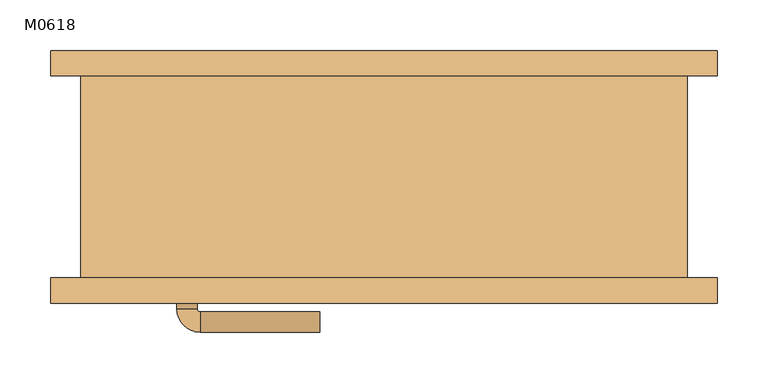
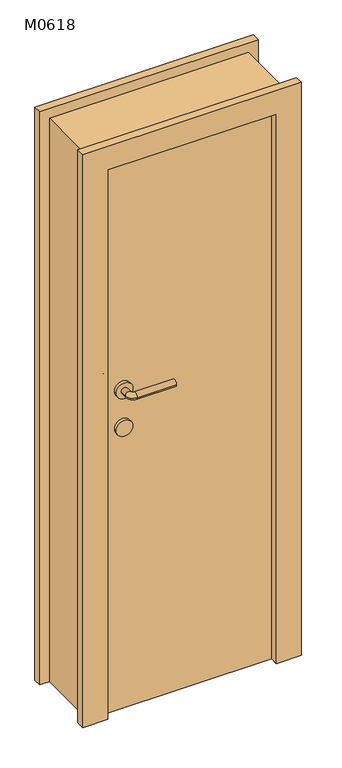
"""IFC4 building model written with IfcOpenShell, lengths in millimetres: door geometry, 单嵌板木门 1 : M0618."""

from ifc_helpers import new_model, si_unit, point, frame, frame_2d, origin, origin_with_axes, place, context, project, spatial, polyline, circle_curve, ellipse_curve, trimmed, segment, composite_curve, outline, extrude, source, transform, mapped, element, save
from ifc_brep_helpers import plane_surface, cylinder_surface, revolved_surface, advanced_brep


def m0618_80e2c4cc(model_context):
    return source(origin(), model_context, "Body", "SolidModel", [
        extrude(outline(composite_curve([segment(trimmed(circle_curve(frame_2d((900.0, -195.0)), 25.0), [point((900.0, -170.0))], [point((900.0, -220.0))], False, "CARTESIAN"), True, "CONTINUOUS"), segment(trimmed(circle_curve(frame_2d((900.0, -195.0)), 25.0), [point((900.0, -220.0))], [point((900.0, -170.0))], False, "CARTESIAN"), True, "CONTINUOUS")], self_intersect=False)), frame((0.0, -50.0, 0.0), z_axis=(0.0, 1.0, 0.0), x_axis=(0.0, 0.0, 1.0)), (0.0, 0.0, 1.0), 10.0),
        extrude(outline(composite_curve([segment(trimmed(circle_curve(frame_2d((900.0, -195.0)), 25.0), [point((900.0, -170.0))], [point((900.0, -220.0))], False, "CARTESIAN"), True, "CONTINUOUS"), segment(trimmed(circle_curve(frame_2d((900.0, -195.0)), 25.0), [point((900.0, -220.0))], [point((900.0, -170.0))], False, "CARTESIAN"), True, "CONTINUOUS")], self_intersect=False)), frame((0.0, -110.0, 0.0), z_axis=(0.0, 1.0, 0.0), x_axis=(0.0, 0.0, 1.0)), (0.0, 0.0, 1.0), 10.0),
        advanced_brep(
        [(-205.0, -40.0, 1020.0), (-185.0, -40.0, 1020.0), (-205.0, -19.386645, 1020.0), (-185.0, -19.386645, 1020.0), (-63.419036, 3.580964, 1020.0), (-63.419036, -16.419036, 1020.0), (-182.0323911, -16.419036, 1020.0), (-182.0323911, 3.580964, 1020.0)],
        [
            (0, 1, circle_curve(frame((-195.0, -40.0, 1020.0), z_axis=(0.0, -1.0, 0.0), x_axis=(1.0, 0.0, 0.0)), 10.0)),
            (1, 0, circle_curve(frame((-195.0, -40.0, 1020.0), z_axis=(0.0, -1.0, 0.0), x_axis=(1.0, 0.0, 0.0)), 10.0)),
            (0, 2),
            (2, 3, circle_curve(frame((-195.0, -19.386645, 1020.0), z_axis=(0.0, -1.0, 0.0), x_axis=(1.0, 0.0, 0.0)), 10.0)),
            (3, 1),
            (3, 2, circle_curve(frame((-195.0, -19.386645, 1020.0), z_axis=(0.0, -1.0, 0.0), x_axis=(1.0, 0.0, 0.0)), 10.0)),
            (4, 5, circle_curve(frame((-63.419036, -6.419036, 1020.0), z_axis=(1.0, 0.0, 0.0), x_axis=(0.0, -1.0, 0.0)), 10.0)),
            (5, 4, circle_curve(frame((-63.419036, -6.419036, 1020.0), z_axis=(1.0, 0.0, 0.0), x_axis=(0.0, -1.0, 0.0)), 10.0)),
            (6, 7, circle_curve(frame((-182.0323911, -6.419036, 1020.0), z_axis=(-1.0, 0.0, 0.0), x_axis=(0.0, -1.0, 0.0)), 10.0)),
            (7, 2, circle_curve(frame((-182.0323911, -19.386645, 1020.0), z_axis=(0.0, 0.0, 1.0), x_axis=(-1.0, 0.0, 0.0)), 22.9676089)),
            (3, 6, circle_curve(frame((-182.0323911, -19.386645, 1020.0), z_axis=(0.0, 0.0, -1.0), x_axis=(-1.0, 0.0, 0.0)), 2.9676089)),
            (7, 6, circle_curve(frame((-182.0323911, -6.419036, 1020.0), z_axis=(-1.0, 0.0, 0.0), x_axis=(0.0, -1.0, 0.0)), 10.0)),
            (6, 5),
            (4, 7),
        ],
        [
            plane_surface(frame((-195.0, -40.0, 900.0), z_axis=(0.0, -1.0, 0.0), x_axis=(0.0, 0.0, 1.0))),
            cylinder_surface(frame((-195.0, -40.0, 1020.0), z_axis=(0.0, -1.0, 0.0), x_axis=(1.0, 0.0, 0.0)), 10.0),
            plane_surface(frame((-63.419036, -6.419036, 900.0), z_axis=(1.0, 0.0, 0.0), x_axis=(0.0, 0.0, 1.0))),
            revolved_surface(trimmed(ellipse_curve(frame((-195.0, -19.386645, 1020.0), z_axis=(0.0, 1.0, 0.0), x_axis=(1.0, 0.0, 0.0)), 10.0, 10.0), [point((-205.0, -19.386645, 1020.0))], [point((-185.0, -19.386645, 1020.0))], True, "CARTESIAN"), (-182.0323911, -19.386645, 900.0), (0.0, 0.0, 1.0)),
            revolved_surface(trimmed(ellipse_curve(frame((-195.0, -19.386645, 1020.0), z_axis=(0.0, 1.0, 0.0), x_axis=(1.0, 0.0, 0.0)), 10.0, 10.0), [point((-185.0, -19.386645, 1020.0))], [point((-205.0, -19.386645, 1020.0))], True, "CARTESIAN"), (-182.0323911, -19.386645, 900.0), (0.0, 0.0, 1.0)),
            cylinder_surface(frame((-182.0323911, -6.419036, 1020.0), z_axis=(-1.0, 0.0, 0.0), x_axis=(0.0, -1.0, 0.0)), 10.0),
        ],
        [
            (0, [[1, 2]]),
            (1, [[3, 4, 5, -1]]),
            (1, [[-5, 6, -3, -2]]),
            (2, [[7, 8]]),
            (3, [[9, 10, -6, 11]]),
            (4, [[12, -11, -4, -10]]),
            (5, [[13, -7, 14, -9]]),
            (5, [[-14, -8, -13, -12]]),
        ],
    ),
        extrude(outline(composite_curve([segment(trimmed(circle_curve(frame_2d((1020.0, -195.0)), 25.0), [point((1020.0, -170.0))], [point((1020.0, -220.0))], False, "CARTESIAN"), True, "CONTINUOUS"), segment(trimmed(circle_curve(frame_2d((1020.0, -195.0)), 25.0), [point((1020.0, -220.0))], [point((1020.0, -170.0))], False, "CARTESIAN"), True, "CONTINUOUS")], self_intersect=False)), frame((0.0, -50.0, 0.0), z_axis=(0.0, 1.0, 0.0), x_axis=(0.0, 0.0, 1.0)), (0.0, 0.0, 1.0), 10.0),
        advanced_brep(
        [(-185.0, -110.0, 1020.0), (-205.0, -110.0, 1020.0), (-205.0, -130.6133551, 1020.0), (-185.0, -130.6133551, 1020.0), (-63.419036, -133.580964, 1020.0), (-63.419036, -153.580964, 1020.0), (-182.0323911, -153.580964, 1020.0), (-182.0323911, -133.580964, 1020.0)],
        [
            (0, 1, circle_curve(frame((-195.0, -110.0, 1020.0), z_axis=(0.0, 1.0, 0.0), x_axis=(-1.0, 0.0, 0.0)), 10.0)),
            (1, 0, circle_curve(frame((-195.0, -110.0, 1020.0), z_axis=(0.0, 1.0, 0.0), x_axis=(-1.0, 0.0, 0.0)), 10.0)),
            (1, 2),
            (2, 3, circle_curve(frame((-195.0, -130.6133551, 1020.0), z_axis=(0.0, 1.0, 0.0), x_axis=(-1.0, 0.0, 0.0)), 10.0)),
            (3, 0),
            (3, 2, circle_curve(frame((-195.0, -130.6133551, 1020.0), z_axis=(0.0, 1.0, 0.0), x_axis=(-1.0, 0.0, 0.0)), 10.0)),
            (4, 5, circle_curve(frame((-63.419036, -143.580964, 1020.0), z_axis=(1.0, 0.0, 0.0), x_axis=(0.0, -1.0, 0.0)), 10.0)),
            (5, 4, circle_curve(frame((-63.419036, -143.580964, 1020.0), z_axis=(1.0, 0.0, 0.0), x_axis=(0.0, -1.0, 0.0)), 10.0)),
            (6, 7, circle_curve(frame((-182.0323911, -143.580964, 1020.0), z_axis=(-1.0, 0.0, 0.0), x_axis=(0.0, -1.0, 0.0)), 10.0)),
            (7, 3, circle_curve(frame((-182.0323911, -130.6133551, 1020.0), z_axis=(0.0, 0.0, -1.0), x_axis=(-1.0, 0.0, 0.0)), 2.9676089)),
            (2, 6, circle_curve(frame((-182.0323911, -130.6133551, 1020.0), z_axis=(0.0, 0.0, 1.0), x_axis=(-1.0, 0.0, 0.0)), 22.9676089)),
            (7, 6, circle_curve(frame((-182.0323911, -143.580964, 1020.0), z_axis=(-1.0, 0.0, 0.0), x_axis=(0.0, -1.0, 0.0)), 10.0)),
            (6, 5),
            (4, 7),
        ],
        [
            plane_surface(frame((-195.0, -110.0, 900.0), z_axis=(0.0, 1.0, 0.0), x_axis=(0.0, 0.0, 1.0))),
            cylinder_surface(frame((-195.0, -110.0, 1020.0), z_axis=(0.0, 1.0, 0.0), x_axis=(-1.0, 0.0, 0.0)), 10.0),
            plane_surface(frame((-63.419036, -143.580964, 900.0), z_axis=(1.0, 0.0, 0.0), x_axis=(0.0, 0.0, 1.0))),
            revolved_surface(trimmed(ellipse_curve(frame((-195.0, -130.6133551, 1020.0), z_axis=(0.0, -1.0, 0.0), x_axis=(-1.0, 0.0, 0.0)), 10.0, 10.0), [point((-185.0, -130.6133551, 1020.0))], [point((-205.0, -130.6133551, 1020.0))], True, "CARTESIAN"), (-182.0323911, -130.6133551, 900.0), (0.0, 0.0, -1.0)),
            revolved_surface(trimmed(ellipse_curve(frame((-195.0, -130.6133551, 1020.0), z_axis=(0.0, -1.0, 0.0), x_axis=(-1.0, 0.0, 0.0)), 10.0, 10.0), [point((-205.0, -130.6133551, 1020.0))], [point((-185.0, -130.6133551, 1020.0))], True, "CARTESIAN"), (-182.0323911, -130.6133551, 900.0), (0.0, 0.0, -1.0)),
            cylinder_surface(frame((-182.0323911, -143.580964, 1020.0), z_axis=(-1.0, 0.0, 0.0), x_axis=(0.0, -1.0, 0.0)), 10.0),
        ],
        [
            (0, [[1, 2]]),
            (1, [[3, 4, 5, -2]]),
            (1, [[-5, 6, -3, -1]]),
            (2, [[7, 8]]),
            (3, [[9, 10, -4, 11]]),
            (4, [[12, -11, -6, -10]]),
            (5, [[13, -7, 14, -9]]),
            (5, [[-14, -8, -13, -12]]),
        ],
    ),
        extrude(outline(composite_curve([segment(trimmed(circle_curve(frame_2d((1020.0, -195.0)), 25.0), [point((1020.0, -170.0))], [point((1020.0, -220.0))], False, "CARTESIAN"), True, "CONTINUOUS"), segment(trimmed(circle_curve(frame_2d((1020.0, -195.0)), 25.0), [point((1020.0, -220.0))], [point((1020.0, -170.0))], False, "CARTESIAN"), True, "CONTINUOUS")], self_intersect=False)), frame((0.0, -110.0, 0.0), z_axis=(0.0, 1.0, 0.0), x_axis=(0.0, 0.0, 1.0)), (0.0, 0.0, 1.0), 10.0),
        extrude(outline(polyline([(0.0, 330.0), (1830.0, 330.0), (1830.0, -330.0), (0.0, -330.0), (0.0, -255.0), (1755.0, -255.0), (1755.0, 255.0), (0.0, 255.0), (0.0, 330.0)])), frame((0.0, -125.0, 0.0), z_axis=(0.0, 1.0, 0.0), x_axis=(0.0, 0.0, 1.0)), (0.0, 0.0, 1.0), 25.0),
        extrude(outline(polyline([(1830.0, 330.0), (1830.0, -330.0), (0.0, -330.0), (0.0, -255.0), (1755.0, -255.0), (1755.0, 255.0), (0.0, 255.0), (0.0, 330.0), (1830.0, 330.0)])), frame((0.0, 100.0, 0.0), z_axis=(0.0, 1.0, 0.0), x_axis=(0.0, 0.0, 1.0)), (0.0, 0.0, 1.0), 25.0),
        extrude(outline(polyline([(255.0, -50.0), (255.0, -100.0), (-255.0, -100.0), (-255.0, -50.0), (255.0, -50.0)])), origin_with_axes(), (0.0, 0.0, 1.0), 1755.0),
        extrude(outline(polyline([(1800.0, -300.0), (0.0, -300.0), (0.0, -255.0), (1755.0, -255.0), (1755.0, 255.0), (0.0, 255.0), (0.0, 300.0), (1800.0, 300.0), (1800.0, -300.0)])), frame((0.0, -100.0, 0.0), z_axis=(0.0, 1.0, 0.0), x_axis=(0.0, 0.0, 1.0)), (0.0, 0.0, 1.0), 200.0),
    ])


if __name__ == "__main__":
    model = new_model("IFC4")
    model_context = context("Model", 3, world=origin())
    ifc_project = project(units=[si_unit("LENGTHUNIT", "METRE", prefix="MILLI")], contexts=[model_context])
    site = spatial("IfcSite", under=ifc_project)
    building = spatial("IfcBuilding", under=site)
    placement = place(None, origin())
    m0618_shape = m0618_80e2c4cc(model_context)
    element("IfcDoor", 1, ObjectType="单嵌板木门 1 : M0618", at=placement, inside=building, context=model_context, shape_type="MappedRepresentation", body=[
        mapped(m0618_shape, transform((0.0, 0.0, 0.0), x_axis=(1.0, 0.0, 0.0), y_axis=(0.0, 1.0, 0.0), z_axis=(0.0, 0.0, 1.0))),
    ])
    save(model, "model.ifc")
